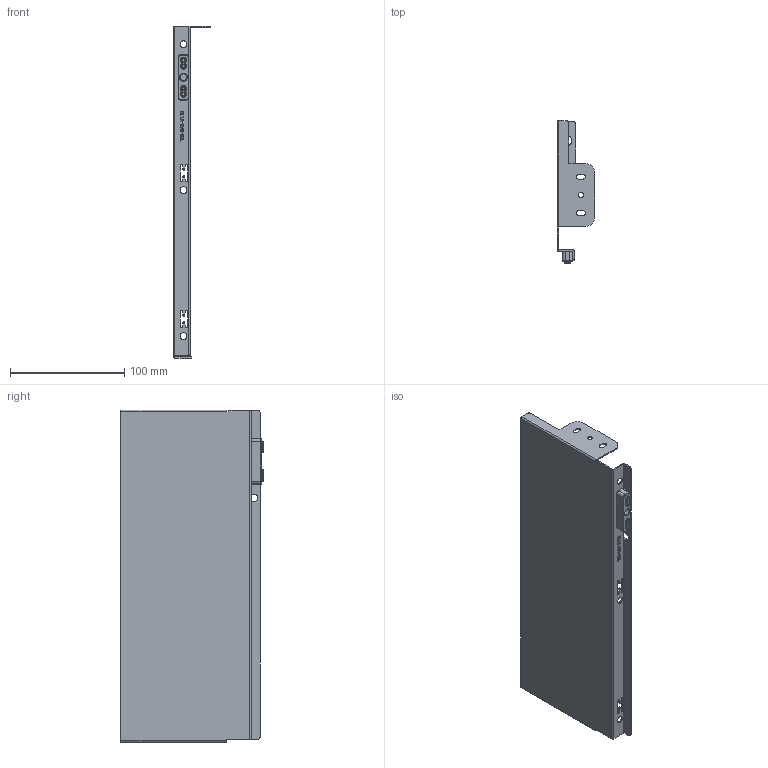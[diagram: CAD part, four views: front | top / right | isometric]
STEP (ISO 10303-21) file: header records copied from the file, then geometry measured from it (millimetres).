
FILE_DESCRIPTION (( 'STEP AP203' ), '1' );
FILE_NAME ('HL12300L.STEP', '2021-07-31T00:35:02', ( 'Users' ), ( 'Microsoft' ), 'SwSTEP 2.0', 'SolidWorks 2018', '' );
FILE_SCHEMA (( 'CONFIG_CONTROL_DESIGN' ));
Length unit declared in the file: millimetre
Products named in the file (1): HL12300L
Bounding box: 32.6 x 124.7 x 291.2 mm (x, y, z)
Volume: 53456.2 mm3; surface area: 87330.6 mm2
Topology: 1 solids, 1 shells, 379 faces, 1017 edges, 656 vertices
Faces by surface type: plane 147, cylinder 127, torus 55, bspline 48, cone 2
Entity records: 14401 total; most frequent: CARTESIAN_POINT 4829, ORIENTED_EDGE 2026, DIRECTION 1948, EDGE_CURVE 1013, AXIS2_PLACEMENT_3D 703, VERTEX_POINT 656, LINE 542, VECTOR 542
